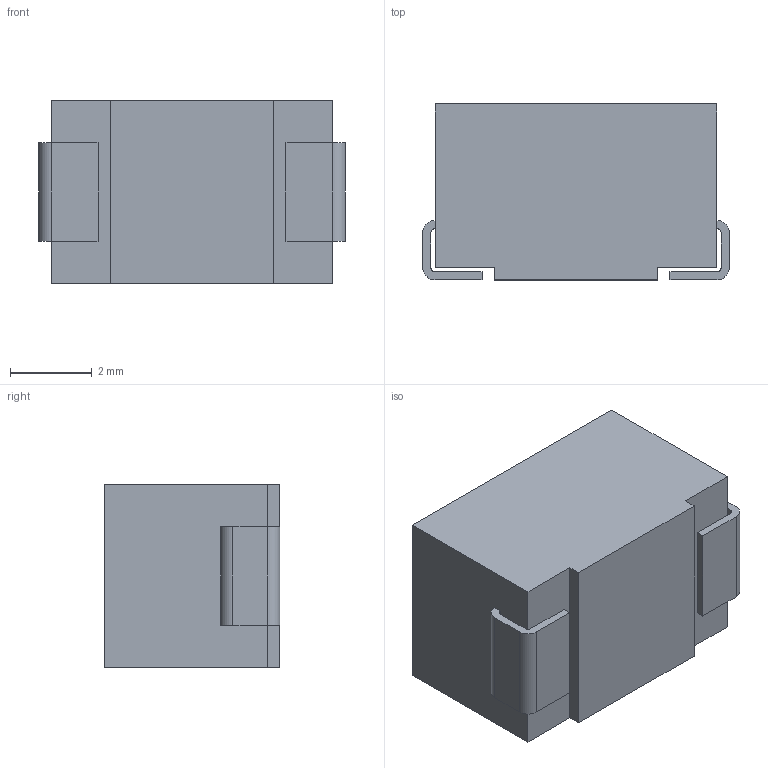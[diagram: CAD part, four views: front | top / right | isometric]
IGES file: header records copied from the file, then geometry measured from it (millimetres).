
Start section:  PTC IGES file: tps_e_7343h_prt.igs
Global section: file name: tps_e_7343h_prt.igs; native system: Pro/ENGINEER by Parametric Technology Corporation; preprocessor: 2000030; author: ECaille; organization: Unknown; date: 000803.092138; units: millimetre
Bounding box: 7.5 x 4.3 x 4.5 mm (x, y, z)
Surface area: 185.7 mm2 (no closed solid volume)
Topology: 0 solids, 0 shells, 32 faces, 285 edges, 402 vertices
Faces by surface type: bspline 24, revolution 8
